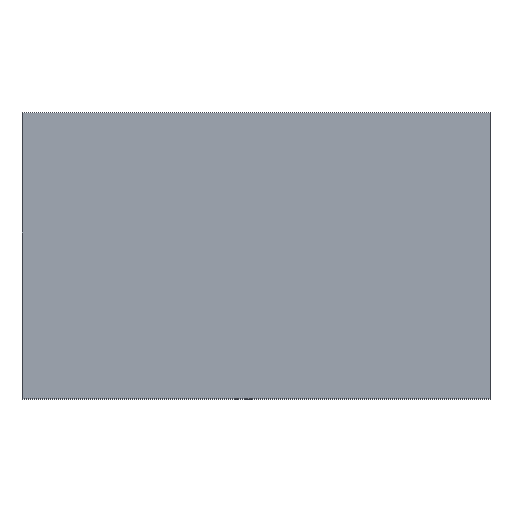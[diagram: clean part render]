
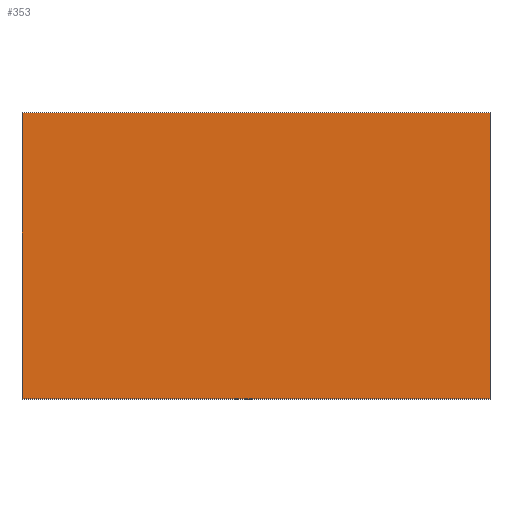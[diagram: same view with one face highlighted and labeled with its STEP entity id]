
A CAD part, top view. The second image highlights one B-rep face of the part: STEP entity #353.
In plain terms, the highlighted planar face has unit normal (0, 0, 1).
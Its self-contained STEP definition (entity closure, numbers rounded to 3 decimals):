
#39 = VERTEX_POINT('',#40);
#40 = CARTESIAN_POINT('',(-1.5,5.5,18.5));
#47 = PLANE('',#48);
#48 = AXIS2_PLACEMENT_3D('',#49,#50,#51);
#49 = CARTESIAN_POINT('',(-1.5,5.5,0.));
#50 = DIRECTION('',(0.,1.,0.));
#51 = DIRECTION('',(1.,0.,0.));
#59 = PLANE('',#60);
#60 = AXIS2_PLACEMENT_3D('',#61,#62,#63);
#61 = CARTESIAN_POINT('',(-1.5,-5.5,0.));
#62 = DIRECTION('',(-1.,0.,0.));
#63 = DIRECTION('',(0.,1.,0.));
#71 = EDGE_CURVE('',#39,#72,#74,.T.);
#72 = VERTEX_POINT('',#73);
#73 = CARTESIAN_POINT('',(16.5,5.5,18.5));
#74 = SURFACE_CURVE('',#75,(#79,#86),.PCURVE_S1.);
#75 = LINE('',#76,#77);
#76 = CARTESIAN_POINT('',(-1.5,5.5,18.5));
#77 = VECTOR('',#78,1.);
#78 = DIRECTION('',(1.,0.,0.));
#79 = PCURVE('',#47,#80);
#80 = DEFINITIONAL_REPRESENTATION('',(#81),#85);
#81 = LINE('',#82,#83);
#82 = CARTESIAN_POINT('',(0.,-18.5));
#83 = VECTOR('',#84,1.);
#84 = DIRECTION('',(1.,0.));
#85 = ( GEOMETRIC_REPRESENTATION_CONTEXT(2) 
PARAMETRIC_REPRESENTATION_CONTEXT() REPRESENTATION_CONTEXT('2D SPACE',''
  ) );
#86 = PCURVE('',#87,#92);
#87 = PLANE('',#88);
#88 = AXIS2_PLACEMENT_3D('',#89,#90,#91);
#89 = CARTESIAN_POINT('',(7.5,0.,18.5));
#90 = DIRECTION('',(-0.,-0.,-1.));
#91 = DIRECTION('',(-1.,0.,0.));
#92 = DEFINITIONAL_REPRESENTATION('',(#93),#97);
#93 = LINE('',#94,#95);
#94 = CARTESIAN_POINT('',(9.,5.5));
#95 = VECTOR('',#96,1.);
#96 = DIRECTION('',(-1.,0.));
#97 = ( GEOMETRIC_REPRESENTATION_CONTEXT(2) 
PARAMETRIC_REPRESENTATION_CONTEXT() REPRESENTATION_CONTEXT('2D SPACE',''
  ) );
#115 = PLANE('',#116);
#116 = AXIS2_PLACEMENT_3D('',#117,#118,#119);
#117 = CARTESIAN_POINT('',(16.5,5.5,0.));
#118 = DIRECTION('',(1.,0.,-0.));
#119 = DIRECTION('',(0.,-1.,0.));
#157 = EDGE_CURVE('',#72,#158,#160,.T.);
#158 = VERTEX_POINT('',#159);
#159 = CARTESIAN_POINT('',(16.5,-5.5,18.5));
#160 = SURFACE_CURVE('',#161,(#165,#172),.PCURVE_S1.);
#161 = LINE('',#162,#163);
#162 = CARTESIAN_POINT('',(16.5,5.5,18.5));
#163 = VECTOR('',#164,1.);
#164 = DIRECTION('',(0.,-1.,0.));
#165 = PCURVE('',#115,#166);
#166 = DEFINITIONAL_REPRESENTATION('',(#167),#171);
#167 = LINE('',#168,#169);
#168 = CARTESIAN_POINT('',(0.,-18.5));
#169 = VECTOR('',#170,1.);
#170 = DIRECTION('',(1.,0.));
#171 = ( GEOMETRIC_REPRESENTATION_CONTEXT(2) 
PARAMETRIC_REPRESENTATION_CONTEXT() REPRESENTATION_CONTEXT('2D SPACE',''
  ) );
#172 = PCURVE('',#87,#173);
#173 = DEFINITIONAL_REPRESENTATION('',(#174),#178);
#174 = LINE('',#175,#176);
#175 = CARTESIAN_POINT('',(-9.,5.5));
#176 = VECTOR('',#177,1.);
#177 = DIRECTION('',(0.,-1.));
#178 = ( GEOMETRIC_REPRESENTATION_CONTEXT(2) 
PARAMETRIC_REPRESENTATION_CONTEXT() REPRESENTATION_CONTEXT('2D SPACE',''
  ) );
#196 = PLANE('',#197);
#197 = AXIS2_PLACEMENT_3D('',#198,#199,#200);
#198 = CARTESIAN_POINT('',(16.5,-5.5,0.));
#199 = DIRECTION('',(0.,-1.,0.));
#200 = DIRECTION('',(-1.,0.,0.));
#233 = EDGE_CURVE('',#158,#234,#236,.T.);
#234 = VERTEX_POINT('',#235);
#235 = CARTESIAN_POINT('',(-1.5,-5.5,18.5));
#236 = SURFACE_CURVE('',#237,(#241,#248),.PCURVE_S1.);
#237 = LINE('',#238,#239);
#238 = CARTESIAN_POINT('',(16.5,-5.5,18.5));
#239 = VECTOR('',#240,1.);
#240 = DIRECTION('',(-1.,0.,0.));
#241 = PCURVE('',#196,#242);
#242 = DEFINITIONAL_REPRESENTATION('',(#243),#247);
#243 = LINE('',#244,#245);
#244 = CARTESIAN_POINT('',(0.,-18.5));
#245 = VECTOR('',#246,1.);
#246 = DIRECTION('',(1.,0.));
#247 = ( GEOMETRIC_REPRESENTATION_CONTEXT(2) 
PARAMETRIC_REPRESENTATION_CONTEXT() REPRESENTATION_CONTEXT('2D SPACE',''
  ) );
#248 = PCURVE('',#87,#249);
#249 = DEFINITIONAL_REPRESENTATION('',(#250),#254);
#250 = LINE('',#251,#252);
#251 = CARTESIAN_POINT('',(-9.,-5.5));
#252 = VECTOR('',#253,1.);
#253 = DIRECTION('',(1.,0.));
#254 = ( GEOMETRIC_REPRESENTATION_CONTEXT(2) 
PARAMETRIC_REPRESENTATION_CONTEXT() REPRESENTATION_CONTEXT('2D SPACE',''
  ) );
#304 = EDGE_CURVE('',#234,#39,#305,.T.);
#305 = SURFACE_CURVE('',#306,(#310,#317),.PCURVE_S1.);
#306 = LINE('',#307,#308);
#307 = CARTESIAN_POINT('',(-1.5,-5.5,18.5));
#308 = VECTOR('',#309,1.);
#309 = DIRECTION('',(0.,1.,0.));
#310 = PCURVE('',#59,#311);
#311 = DEFINITIONAL_REPRESENTATION('',(#312),#316);
#312 = LINE('',#313,#314);
#313 = CARTESIAN_POINT('',(0.,-18.5));
#314 = VECTOR('',#315,1.);
#315 = DIRECTION('',(1.,0.));
#316 = ( GEOMETRIC_REPRESENTATION_CONTEXT(2) 
PARAMETRIC_REPRESENTATION_CONTEXT() REPRESENTATION_CONTEXT('2D SPACE',''
  ) );
#317 = PCURVE('',#87,#318);
#318 = DEFINITIONAL_REPRESENTATION('',(#319),#323);
#319 = LINE('',#320,#321);
#320 = CARTESIAN_POINT('',(9.,-5.5));
#321 = VECTOR('',#322,1.);
#322 = DIRECTION('',(0.,1.));
#323 = ( GEOMETRIC_REPRESENTATION_CONTEXT(2) 
PARAMETRIC_REPRESENTATION_CONTEXT() REPRESENTATION_CONTEXT('2D SPACE',''
  ) );
#353 = ADVANCED_FACE('',(#354),#87,.F.);
#354 = FACE_BOUND('',#355,.F.);
#355 = EDGE_LOOP('',(#356,#357,#358,#359));
#356 = ORIENTED_EDGE('',*,*,#71,.T.);
#357 = ORIENTED_EDGE('',*,*,#157,.T.);
#358 = ORIENTED_EDGE('',*,*,#233,.T.);
#359 = ORIENTED_EDGE('',*,*,#304,.T.);
